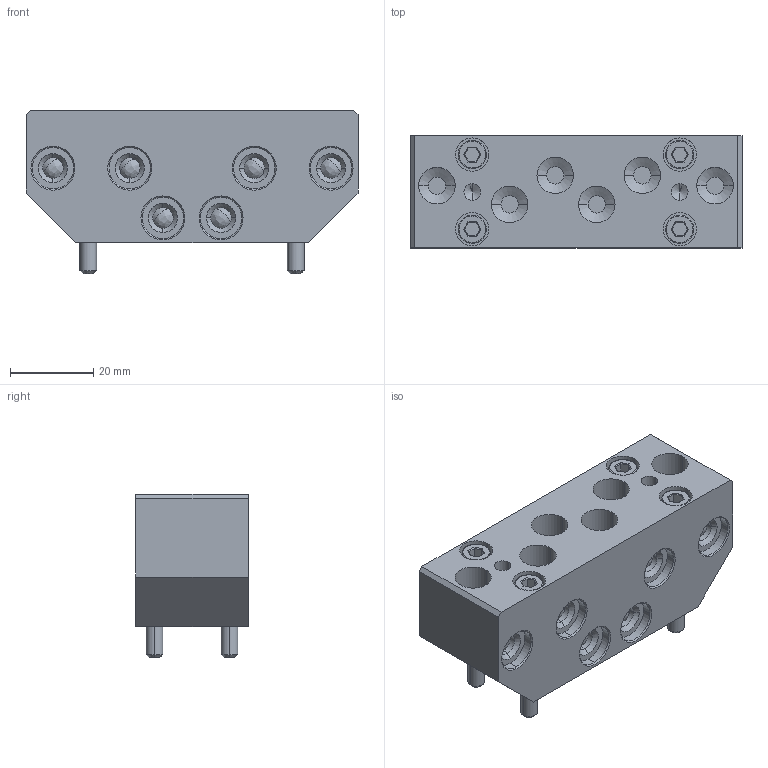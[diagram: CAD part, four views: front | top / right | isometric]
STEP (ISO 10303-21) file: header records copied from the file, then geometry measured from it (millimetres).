
FILE_DESCRIPTION (( 'STEP AP203' ), '1' );
FILE_NAME ('QCAM-06G18R-F.STEP', '2024-03-14T08:41:26', ( '微软用户' ), ( '微软中国' ), 'SwSTEP 2.0', 'SolidWorks 2018', '' );
FILE_SCHEMA (( 'CONFIG_CONTROL_DESIGN' ));
Length unit declared in the file: millimetre
Products named in the file (1): QCAM-06G18R-F
Bounding box: 80 x 27 x 39.5 mm (x, y, z)
Volume: 59524.4 mm3; surface area: 17500.4 mm2
Topology: 1 solids, 1 shells, 258 faces, 590 edges, 356 vertices
Faces by surface type: plane 90, cylinder 88, cone 60, bspline 20
Entity records: 8001 total; most frequent: CARTESIAN_POINT 2077, DIRECTION 1310, ORIENTED_EDGE 1140, EDGE_CURVE 570, AXIS2_PLACEMENT_3D 509, VERTEX_POINT 356, EDGE_LOOP 300, LINE 292
